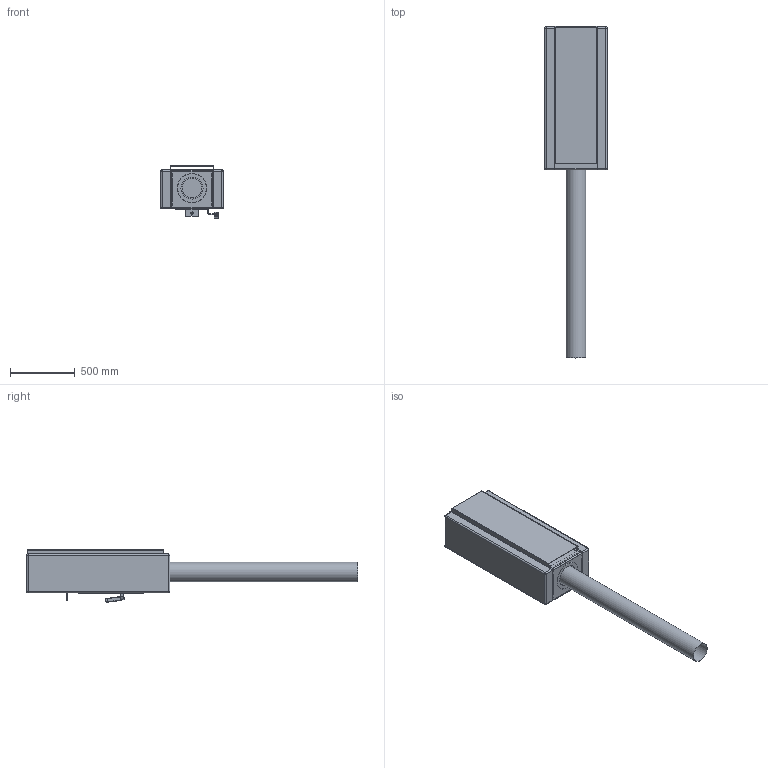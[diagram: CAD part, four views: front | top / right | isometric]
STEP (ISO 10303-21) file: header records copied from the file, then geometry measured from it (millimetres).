
FILE_DESCRIPTION (( 'STEP AP214' ), '1' );
FILE_NAME ('Leenders Kilo.STEP', '2022-05-03T12:28:14', ( '' ), ( '' ), 'SwSTEP 2.0', 'SolidWorks 2022', '' );
FILE_SCHEMA (( 'AUTOMOTIVE_DESIGN' ));
Length unit declared in the file: millimetre
Products named in the file (1): Leenders Kilo
Bounding box: 482 x 2561.8 x 404.09 mm (x, y, z)
Volume: 73594687.9 mm3; surface area: 9026880 mm2
Topology: 37 solids, 37 shells, 1754 faces, 4566 edges, 2895 vertices
Faces by surface type: plane 1014, cylinder 451, bspline 150, cone 71, sphere 48, torus 20
Full cylindrical faces by diameter (mm): 4.2 x3, 5 x10, 6 x1, 6.6 x2, 6.8 x1, 7 x1, 8 x3, 8.2 x1, 9.5 x1, 10 x2, 12 x1, 13.8 x1, 15 x1, 150 x1, 152 x1, 170 x1, 224 x1, 225 x1
Entity records: 61289 total; most frequent: CARTESIAN_POINT 17570, ORIENTED_EDGE 8950, DIRECTION 8275, EDGE_CURVE 4475, LINE 3077, VECTOR 3077, VERTEX_POINT 2874, AXIS2_PLACEMENT_3D 2599
